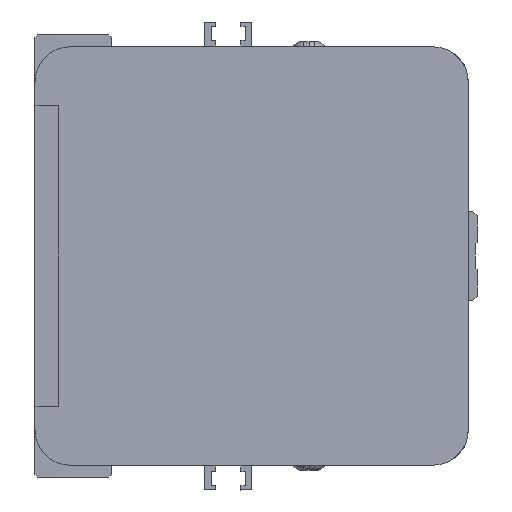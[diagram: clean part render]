
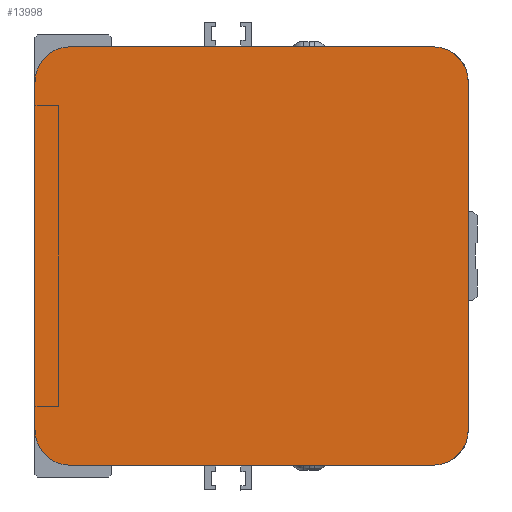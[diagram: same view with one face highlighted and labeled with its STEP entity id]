
A CAD part, left-side view. The second image highlights one B-rep face of the part: STEP entity #13998.
In plain terms, the highlighted planar face has unit normal (-1, 0, 0) as drawn and (0, 0, -1) by its records, which use the part's own axes.
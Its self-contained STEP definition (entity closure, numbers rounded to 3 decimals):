
#1028=CIRCLE('',#15021,6.);
#1029=CIRCLE('',#15026,6.);
#1037=CIRCLE('',#15037,6.);
#1038=CIRCLE('',#15039,6.);
#1738=FACE_OUTER_BOUND('',#2599,.T.);
#2599=EDGE_LOOP('',(#9814,#9815,#9816,#9817,#9818,#9819,#9820,#9821));
#3709=LINE('',#19783,#4993);
#3714=LINE('',#19794,#4998);
#3721=LINE('',#19809,#5005);
#3725=LINE('',#19894,#5009);
#4993=VECTOR('',#16383,61.5);
#4998=VECTOR('',#16394,59.);
#5005=VECTOR('',#16411,61.5);
#5009=VECTOR('',#16437,59.);
#6279=VERTEX_POINT('',#19779);
#6281=VERTEX_POINT('',#19782);
#6282=VERTEX_POINT('',#19787);
#6284=VERTEX_POINT('',#19793);
#6286=VERTEX_POINT('',#19804);
#6287=VERTEX_POINT('',#19808);
#6296=VERTEX_POINT('',#19889);
#6297=VERTEX_POINT('',#19893);
#7703=EDGE_CURVE('',#6281,#6279,#3709,.T.);
#7706=EDGE_CURVE('',#6281,#6282,#1028,.T.);
#7709=EDGE_CURVE('',#6284,#6282,#3714,.T.);
#7715=EDGE_CURVE('',#6284,#6286,#1029,.T.);
#7717=EDGE_CURVE('',#6287,#6286,#3721,.T.);
#7730=EDGE_CURVE('',#6296,#6279,#1037,.T.);
#7731=EDGE_CURVE('',#6296,#6297,#3725,.T.);
#7732=EDGE_CURVE('',#6287,#6297,#1038,.T.);
#9814=ORIENTED_EDGE('',*,*,#7715,.F.);
#9815=ORIENTED_EDGE('',*,*,#7709,.T.);
#9816=ORIENTED_EDGE('',*,*,#7706,.F.);
#9817=ORIENTED_EDGE('',*,*,#7703,.T.);
#9818=ORIENTED_EDGE('',*,*,#7730,.F.);
#9819=ORIENTED_EDGE('',*,*,#7731,.T.);
#9820=ORIENTED_EDGE('',*,*,#7732,.F.);
#9821=ORIENTED_EDGE('',*,*,#7717,.T.);
#13456=PLANE('',#15038);
#13998=ADVANCED_FACE('',(#1738),#13456,.F.);
#15021=AXIS2_PLACEMENT_3D('',#19788,#16388,#16389);
#15026=AXIS2_PLACEMENT_3D('',#19805,#16406,#16407);
#15037=AXIS2_PLACEMENT_3D('',#19891,#16433,#16434);
#15038=AXIS2_PLACEMENT_3D('',#19892,#16435,#16436);
#15039=AXIS2_PLACEMENT_3D('',#19895,#16438,#16439);
#16383=DIRECTION('',(0.,-1.,0.));
#16388=DIRECTION('center_axis',(0.,0.,
1.));
#16389=DIRECTION('ref_axis',(0.707,0.707,0.));
#16394=DIRECTION('',(1.,0.,0.));
#16406=DIRECTION('center_axis',(0.,0.,
1.));
#16407=DIRECTION('ref_axis',(-0.707,0.707,0.));
#16411=DIRECTION('',(0.,1.,0.));
#16433=DIRECTION('center_axis',(0.,0.,
1.));
#16434=DIRECTION('ref_axis',(0.707,-0.707,0.));
#16435=DIRECTION('center_axis',(0.,0.,
1.));
#16436=DIRECTION('ref_axis',(1.,0.,0.));
#16437=DIRECTION('',(-1.,0.,0.));
#16438=DIRECTION('center_axis',(0.,0.,
1.));
#16439=DIRECTION('ref_axis',(-0.707,-0.707,0.));
#19779=CARTESIAN_POINT('',(75.2,7.5,-807.));
#19782=CARTESIAN_POINT('',(75.2,69.,-807.));
#19783=CARTESIAN_POINT('',(75.2,69.,-807.));
#19787=CARTESIAN_POINT('',(69.2,75.,-807.));
#19788=CARTESIAN_POINT('Origin',(69.2,69.,-807.));
#19793=CARTESIAN_POINT('',(10.2,75.,-807.));
#19794=CARTESIAN_POINT('',(10.2,75.,-807.));
#19804=CARTESIAN_POINT('',(4.2,69.,-807.));
#19805=CARTESIAN_POINT('Origin',(10.2,69.,-807.));
#19808=CARTESIAN_POINT('',(4.2,7.5,-807.));
#19809=CARTESIAN_POINT('',(4.2,7.5,-807.));
#19889=CARTESIAN_POINT('',(69.2,1.5,-807.));
#19891=CARTESIAN_POINT('Origin',(69.2,7.5,-807.));
#19892=CARTESIAN_POINT('Origin',(39.7,38.25,-807.));
#19893=CARTESIAN_POINT('',(10.2,1.5,-807.));
#19894=CARTESIAN_POINT('',(69.2,1.5,-807.));
#19895=CARTESIAN_POINT('Origin',(10.2,7.5,-807.));
